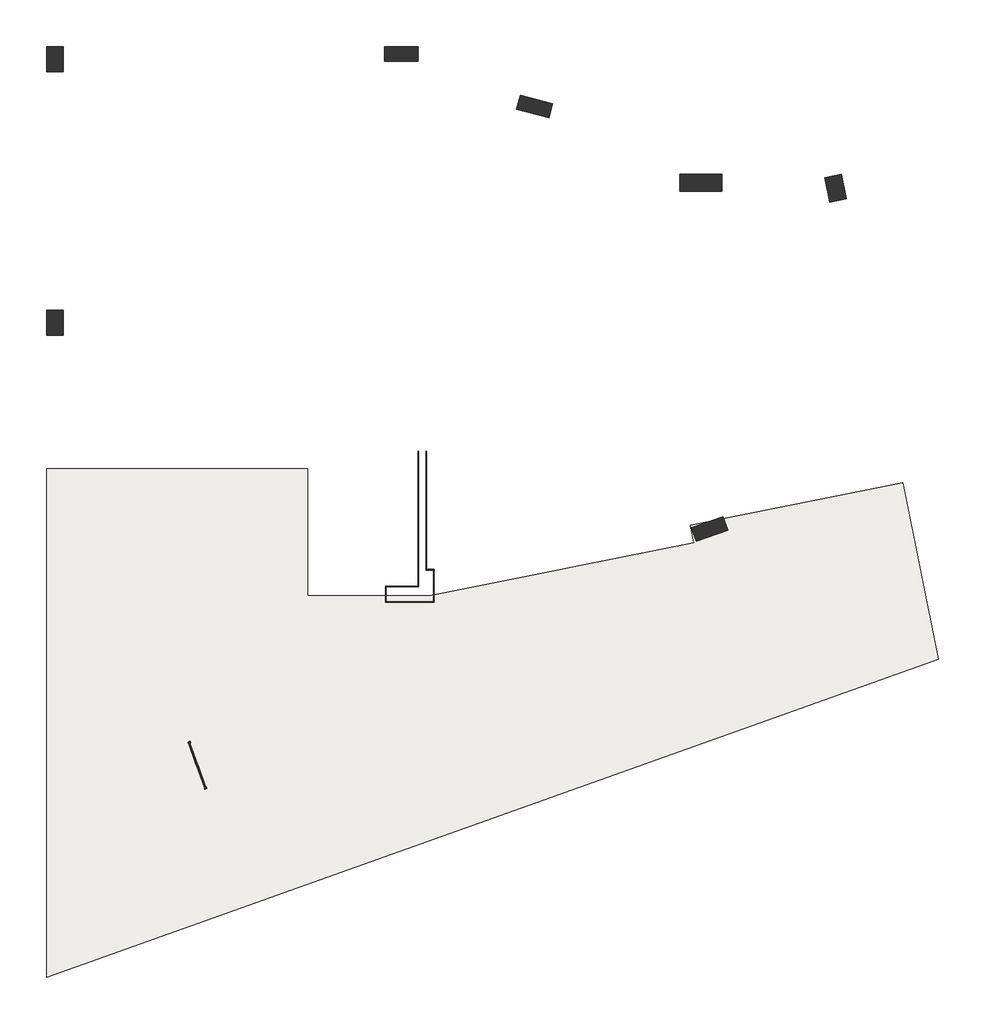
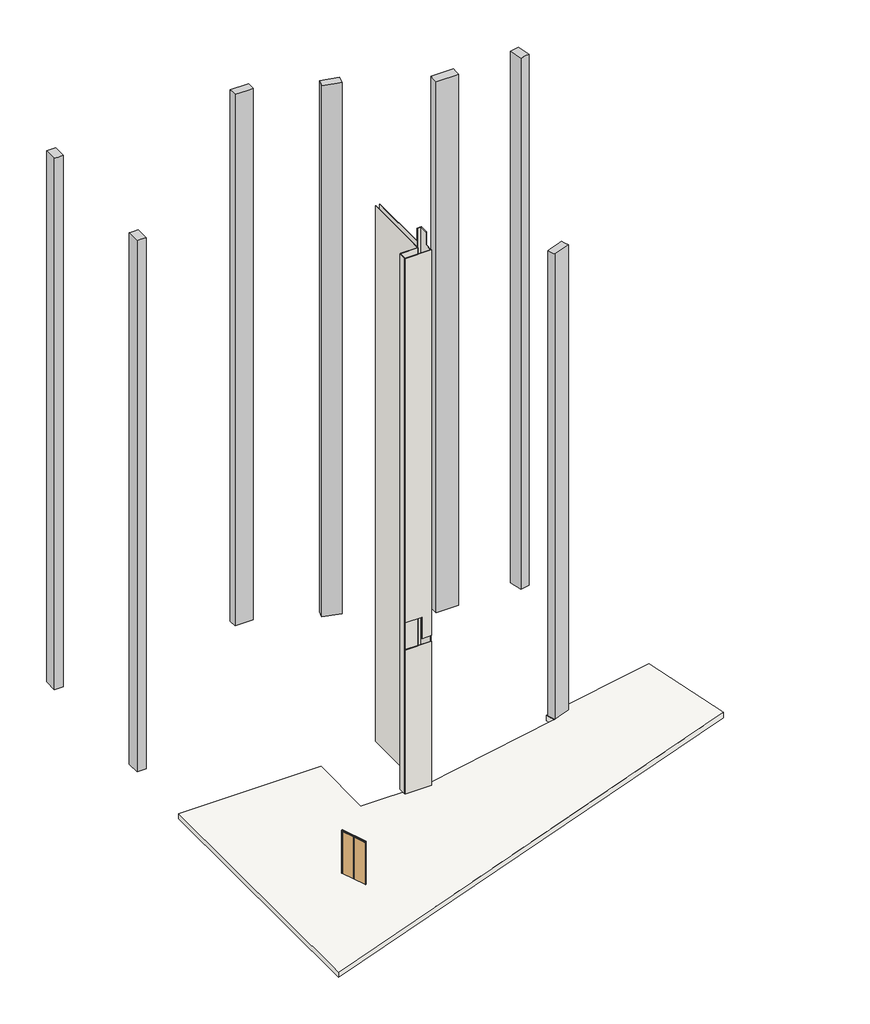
# One storey, incomplete: 7 columns, 7 walls, 1 door, 1 slab.
"""IFC4 building model written with IfcOpenShell, lengths in millimetres."""

from ifc_helpers import new_model, si_unit, frame, origin, place, context, project, spatial, polyline, outline, extrude, faceted_brep, transform, mapped, element, save
from components import door_ce10c01f

model = new_model("IFC4")

# Units and contexts
model_context = context("Model", 3, world=origin())
ifc_project = project(units=[si_unit("LENGTHUNIT", "METRE", prefix="MILLI")], contexts=[model_context])

# Site, building, storey
site = spatial("IfcSite", under=ifc_project)
building = spatial("IfcBuilding", under=site)
storey = spatial("IfcBuildingStorey", under=building, Name="SÓTANO 2/B", Elevation=-7000.0)

# Columns
placement = place(None, origin())
element("IfcColumn", 1, ObjectType="M_Hormigón-Rectangular-Pilar : 35 X 80", at=placement, inside=storey, context=model_context, shape_type="Brep", body=[
    faceted_brep([(42104.5059119, 38240.4026232, -7000.0), (42904.5059119, 38240.4026232, -7000.0), (42904.5059119, 37890.4026232, -7000.0), (42104.5059119, 37890.4026232, -7000.0), (42104.5059119, 38240.4026232, 17800.0), (42904.5059119, 38240.4026232, 17800.0), (42904.5059119, 38240.4026232, -150.0), (42104.5059119, 38240.4026232, 0.0), (42104.5059119, 38240.4026232, 2720.0), (42104.5059119, 38240.4026232, 3000.0), (42104.5059119, 38240.4026232, 5720.0), (42104.5059119, 38240.4026232, 6000.0), (42104.5059119, 38240.4026232, 8720.0), (42104.5059119, 38240.4026232, 9000.0), (42104.5059119, 38240.4026232, 11720.0), (42104.5059119, 38240.4026232, 12000.0), (42104.5059119, 38240.4026232, 14720.0), (42104.5059119, 38240.4026232, 15000.0), (42904.5059119, 37890.4026232, 17800.0), (42904.5059119, 37890.4026232, -150.0), (42744.5059119, 37890.4026232, 17800.0), (42264.5059119, 37890.4026232, 17800.0), (42104.5059119, 37890.4026232, 17800.0), (42104.5059119, 37890.4026232, 15000.0), (42104.5059119, 37890.4026232, 14720.0), (42104.5059119, 37890.4026232, 12000.0), (42104.5059119, 37890.4026232, 8720.0), (42104.5059119, 37890.4026232, 6000.0), (42104.5059119, 37890.4026232, 5720.0), (42104.5059119, 37890.4026232, 3000.0), (42104.5059119, 37890.4026232, 2720.0), (42104.5059119, 37890.4026232, 0.0), (42104.5059119, 38080.4026232, 17800.0)], [[[0, 1, 2, 3]], [[4, 5, 6, 1, 0, 7, 8, 9, 10, 11, 12, 13, 14, 15, 16, 17]], [[5, 18, 19, 2, 1, 6]], [[18, 20, 21, 22, 23, 24, 25, 26, 27, 28, 29, 30, 31, 3, 2, 19]], [[22, 32, 4, 17, 16, 15, 14, 13, 12, 11, 10, 9, 8, 7, 0, 3, 31, 30, 29, 28, 27, 26, 25, 24, 23]], [[4, 32, 22, 21, 20, 18, 5]]]),
])
element("IfcColumn", 2, ObjectType="M_Hormigón-Rectangular-Pilar : 35 X 80", at=placement, inside=storey, context=model_context, shape_type="Brep", body=[
    faceted_brep([(45362.6697333, 37073.7353748, -7000.0), (46135.226526, 36865.9951474, -7000.0), (46044.3401765, 36528.0015506, -7000.0), (45271.7833838, 36735.741778, -7000.0), (45362.6697333, 37073.7353748, 17800.0), (46134.5059119, 36866.1889203, 17800.0), (46135.226526, 36865.9951474, 17800.0), (46135.226526, 36865.9951474, -143.1125334), (45362.6697333, 37073.7353748, 0.0), (45362.6697333, 37073.7353748, 2720.0), (45362.6697333, 37073.7353748, 3000.0), (45362.6697333, 37073.7353748, 5720.0), (45362.6697333, 37073.7353748, 6000.0), (45362.6697333, 37073.7353748, 8720.0), (45362.6697333, 37073.7353748, 9000.0), (45362.6697333, 37073.7353748, 11720.0), (45362.6697333, 37073.7353748, 12000.0), (45362.6697333, 37073.7353748, 14720.0), (45362.6697333, 37073.7353748, 15000.0), (46134.5059119, 36863.3152848, 17800.0), (46044.3401765, 36528.0015506, 17800.0), (46044.3401765, 36528.0015506, 3000.0), (46044.3401765, 36528.0015506, 2720.0), (46044.3401765, 36528.0015506, -143.1125334), (45974.5059119, 36546.7799578, 17800.0), (45271.7833838, 36735.741778, 17800.0), (45271.7833838, 36735.741778, 5720.0), (45271.7833838, 36735.741778, 0.0), (45321.1216878, 36919.2240162, 17800.0)], [[[0, 1, 2, 3]], [[4, 5, 6, 7, 1, 0, 8, 9, 10, 11, 12, 13, 14, 15, 16, 17, 18]], [[6, 19, 20, 21, 22, 23, 2, 1, 7]], [[20, 24, 25, 26, 27, 3, 2, 23, 22, 21]], [[25, 28, 4, 18, 17, 16, 15, 14, 13, 12, 11, 10, 9, 8, 0, 3, 27, 26]], [[4, 28, 25, 24, 20, 19, 6, 5]]]),
])
element("IfcColumn", 3, ObjectType="M_Hormigón-Rectangular-Pilar : 35 X 80", at=placement, inside=storey, context=model_context, shape_type="Brep", body=[
    faceted_brep([(50335.574577, 26632.7848285, -7000.0), (50298.7246638, 26619.6532307, -7000.0), (50165.4560478, 26572.1624849, -7000.0), (49581.9928344, 26364.2432915, -7000.0), (49464.5059119, 26693.9353039, -7000.0), (50218.0876546, 26962.4768409, -7000.0), (50335.574577, 26632.7848285, 14720.0), (49581.9928344, 26364.2432915, 14720.0), (49581.9928344, 26364.2432915, 14400.0), (49581.9928344, 26364.2432915, 3000.0), (49581.9928344, 26364.2432915, -1000.0), (50335.574577, 26632.7848285, -1000.0), (50335.574577, 26632.7848285, 14350.0), (49571.9225267, 26392.5026068, 14720.0), (49464.5059119, 26693.9353039, 14720.0), (49464.5059119, 26693.9353039, 12000.0), (49464.5059119, 26693.9353039, 11720.0), (49464.5059119, 26693.9353039, 9000.0), (49464.5059119, 26693.9353039, 3000.0), (49464.5059119, 26693.9353039, 2720.0), (49464.5059119, 26693.9353039, 0.0), (49584.5059119, 26736.6977311, 14720.0), (50105.2453009, 26922.2650664, 14720.0), (50218.0876546, 26962.4768409, 14720.0), (50218.0876546, 26962.4768409, 9000.0), (50218.0876546, 26962.4768409, 8720.0), (50218.0876546, 26962.4768409, 5720.0), (50218.0876546, 26962.4768409, 0.0), (50281.8662696, 26783.501177, 14720.0)], [[[0, 1, 2, 3, 4, 5]], [[6, 7, 8, 9, 10, 3, 2, 1, 0, 11, 12]], [[7, 13, 14, 15, 16, 17, 18, 19, 20, 4, 3, 10, 9, 8]], [[14, 21, 22, 23, 24, 25, 26, 27, 5, 4, 20, 19, 18, 17, 16, 15]], [[23, 28, 6, 12, 11, 0, 5, 27, 26, 25, 24]], [[6, 28, 23, 22, 21, 14, 13, 7]]]),
])
element("IfcColumn", 4, ObjectType="M_Hormigón-Rectangular-Pilar : 40 X 100", at=placement, inside=storey, context=model_context, shape_type="Brep", body=[
    faceted_brep([(49194.4822189, 35174.0104642, -7000.0), (50194.4822189, 35174.0104642, -7000.0), (50194.4822189, 34774.0104642, -7000.0), (49194.4822189, 34774.0104642, -7000.0), (49194.4822189, 35174.0104642, 17800.0), (50194.4822189, 35174.0104642, 17800.0), (50194.4822189, 35174.0104642, 15000.0), (50194.4822189, 35174.0104642, 14720.0), (50194.4822189, 35174.0104642, 12000.0), (50194.4822189, 35174.0104642, 11720.0), (50194.4822189, 35174.0104642, 9000.0), (50194.4822189, 35174.0104642, 8720.0), (50194.4822189, 35174.0104642, 6000.0), (50194.4822189, 35174.0104642, 5720.0), (50194.4822189, 35174.0104642, 3000.0), (50194.4822189, 35174.0104642, 2720.0), (50194.4822189, 35174.0104642, -150.0), (49194.4822189, 35174.0104642, -150.0), (49194.4822189, 35174.0104642, 2720.0), (49194.4822189, 35174.0104642, 3000.0), (49194.4822189, 35174.0104642, 5720.0), (49194.4822189, 35174.0104642, 6000.0), (49194.4822189, 35174.0104642, 8720.0), (49194.4822189, 35174.0104642, 9000.0), (49194.4822189, 35174.0104642, 11720.0), (49194.4822189, 35174.0104642, 12000.0), (49194.4822189, 35174.0104642, 14720.0), (49194.4822189, 35174.0104642, 15000.0), (50194.4822189, 35014.0104642, 17800.0), (50194.4822189, 34899.0104642, 17800.0), (50194.4822189, 34774.0104642, 17800.0), (50194.4822189, 34774.0104642, 14720.0), (50194.4822189, 34774.0104642, 12000.0), (50194.4822189, 34774.0104642, 11720.0), (50194.4822189, 34774.0104642, 9000.0), (50194.4822189, 34774.0104642, 6000.0), (50194.4822189, 34774.0104642, 5720.0), (50194.4822189, 34774.0104642, 3000.0), (50194.4822189, 34774.0104642, 2720.0), (50194.4822189, 34774.0104642, -150.0), (50074.4822189, 34774.0104642, 17800.0), (49314.4822189, 34774.0104642, 17800.0), (49194.4822189, 34774.0104642, 17800.0), (49194.4822189, 34774.0104642, 15000.0), (49194.4822189, 34774.0104642, 2720.0), (49194.4822189, 34774.0104642, -150.0), (49194.4822189, 35014.0104642, 17800.0)], [[[0, 1, 2, 3]], [[4, 5, 6, 7, 8, 9, 10, 11, 12, 13, 14, 15, 16, 1, 0, 17, 18, 19, 20, 21, 22, 23, 24, 25, 26, 27]], [[5, 28, 29, 30, 31, 32, 33, 34, 35, 36, 37, 38, 39, 2, 1, 16, 15, 14, 13, 12, 11, 10, 9, 8, 7, 6]], [[30, 40, 41, 42, 43, 44, 45, 3, 2, 39, 38, 37, 36, 35, 34, 33, 32, 31]], [[42, 46, 4, 27, 26, 25, 24, 23, 22, 21, 20, 19, 18, 17, 0, 3, 45, 44, 43]], [[4, 46, 42, 41, 40, 30, 29, 28, 5]]]),
])
element("IfcColumn", 5, ObjectType="M_Hormigón-Rectangular-Pilar : 40 X 60", at=placement, inside=storey, context=model_context, shape_type="Brep", body=[
    faceted_brep([(34383.8589874, 31913.9733508, -7000.0), (34383.8589874, 31313.9733508, -7000.0), (33983.8589874, 31313.9733508, -7000.0), (33983.8589874, 31913.9733508, -7000.0), (34383.8589874, 31913.9733508, 17800.0), (34383.8589874, 31768.9733508, 17800.0), (34383.8589874, 31313.9733508, 17800.0), (34383.8589874, 31313.9733508, 5720.0), (34383.8589874, 31313.9733508, 0.0), (34383.8589874, 31913.9733508, 0.0), (34383.8589874, 31913.9733508, 5720.0), (34383.8589874, 31913.9733508, 15000.0), (34143.8589874, 31313.9733508, 17800.0), (33983.8589874, 31313.9733508, 17800.0), (33983.8589874, 31313.9733508, 15000.0), (33983.8589874, 31313.9733508, 12000.0), (33983.8589874, 31313.9733508, 11720.0), (33983.8589874, 31313.9733508, 9000.0), (33983.8589874, 31313.9733508, 8720.0), (33983.8589874, 31313.9733508, 6000.0), (33983.8589874, 31313.9733508, 5720.0), (33983.8589874, 31313.9733508, 3000.0), (33983.8589874, 31313.9733508, 2720.0), (33983.8589874, 31313.9733508, 0.0), (33983.8589874, 31913.9733508, 17800.0), (33983.8589874, 31913.9733508, 15000.0), (33983.8589874, 31913.9733508, 14720.0), (33983.8589874, 31913.9733508, 12000.0), (33983.8589874, 31913.9733508, 11720.0), (33983.8589874, 31913.9733508, 9000.0), (33983.8589874, 31913.9733508, 8720.0), (33983.8589874, 31913.9733508, 6000.0), (33983.8589874, 31913.9733508, 5720.0), (33983.8589874, 31913.9733508, 3000.0), (33983.8589874, 31913.9733508, 2720.0), (33983.8589874, 31913.9733508, 0.0), (34143.8589874, 31913.9733508, 17800.0)], [[[0, 1, 2, 3]], [[4, 5, 6, 7, 8, 1, 0, 9, 10, 11]], [[6, 12, 13, 14, 15, 16, 17, 18, 19, 20, 21, 22, 23, 2, 1, 8, 7]], [[13, 24, 25, 26, 27, 28, 29, 30, 31, 32, 33, 34, 35, 3, 2, 23, 22, 21, 20, 19, 18, 17, 16, 15, 14]], [[24, 36, 4, 11, 10, 9, 0, 3, 35, 34, 33, 32, 31, 30, 29, 28, 27, 26, 25]], [[4, 36, 24, 13, 12, 6, 5]]]),
])
element("IfcColumn", 6, ObjectType="M_Hormigón-Rectangular-Pilar : 40 X 60", at=placement, inside=storey, context=model_context, shape_type="Brep", body=[
    faceted_brep([(34383.8589874, 38240.4026232, -7000.0), (34383.8589874, 37640.4026232, -7000.0), (33983.8589874, 37640.4026232, -7000.0), (33983.8589874, 38240.4026232, -7000.0), (34383.8589874, 38240.4026232, 17800.0), (34383.8589874, 38080.4026232, 17800.0), (34383.8589874, 37765.4026232, 17800.0), (34383.8589874, 37640.4026232, 17800.0), (34383.8589874, 37640.4026232, 0.0), (34383.8589874, 38240.4026232, 0.0), (34383.8589874, 38240.4026232, 2720.0), (34383.8589874, 38240.4026232, 3000.0), (34383.8589874, 38240.4026232, 5720.0), (34383.8589874, 38240.4026232, 6000.0), (34383.8589874, 38240.4026232, 8720.0), (34383.8589874, 38240.4026232, 9000.0), (34383.8589874, 38240.4026232, 11720.0), (34383.8589874, 38240.4026232, 12000.0), (34383.8589874, 38240.4026232, 14720.0), (34383.8589874, 38240.4026232, 15000.0), (34143.8589874, 37640.4026232, 17800.0), (33983.8589874, 37640.4026232, 17800.0), (33983.8589874, 37640.4026232, 15000.0), (33983.8589874, 37640.4026232, 14720.0), (33983.8589874, 37640.4026232, 12000.0), (33983.8589874, 37640.4026232, 11720.0), (33983.8589874, 37640.4026232, 9000.0), (33983.8589874, 37640.4026232, 8720.0), (33983.8589874, 37640.4026232, 6000.0), (33983.8589874, 37640.4026232, 5720.0), (33983.8589874, 37640.4026232, 3000.0), (33983.8589874, 37640.4026232, 2720.0), (33983.8589874, 37640.4026232, 0.0), (33983.8589874, 38240.4026232, 17800.0), (33983.8589874, 38240.4026232, -150.0)], [[[0, 1, 2, 3]], [[4, 5, 6, 7, 8, 1, 0, 9, 10, 11, 12, 13, 14, 15, 16, 17, 18, 19]], [[7, 20, 21, 22, 23, 24, 25, 26, 27, 28, 29, 30, 31, 32, 2, 1, 8]], [[21, 33, 34, 3, 2, 32, 31, 30, 29, 28, 27, 26, 25, 24, 23, 22]], [[33, 4, 19, 18, 17, 16, 15, 14, 13, 12, 11, 10, 9, 0, 3, 34]], [[4, 33, 21, 20, 7, 6, 5]]]),
])
element("IfcColumn", 7, ObjectType="M_Hormigón-Rectangular-Pilar : 40 X 60", at=placement, inside=storey, context=model_context, shape_type="Brep", body=[
    faceted_brep([(53063.0024673, 35174.0104642, -7000.0), (53180.835534, 34585.6947595, -7000.0), (52788.6250642, 34507.1393817, -7000.0), (52670.7919975, 35095.4550864, -7000.0), (53063.0024673, 35174.0104642, 17800.0), (53180.835534, 34585.6947595, 17800.0), (53180.835534, 34585.6947595, 16000.0), (53180.835534, 34585.6947595, 15000.0), (53180.835534, 34585.6947595, 14720.0), (53180.835534, 34585.6947595, 12000.0), (53180.835534, 34585.6947595, 11720.0), (53180.835534, 34585.6947595, 9000.0), (53180.835534, 34585.6947595, 8720.0), (53180.835534, 34585.6947595, 6000.0), (53180.835534, 34585.6947595, 5720.0), (53180.835534, 34585.6947595, 3000.0), (53180.835534, 34585.6947595, 2720.0), (53180.835534, 34585.6947595, 0.0), (53063.0024673, 35174.0104642, -150.0), (53063.0024673, 35174.0104642, 2400.0), (53063.0024673, 35174.0104642, 2720.0), (53063.0024673, 35174.0104642, 3000.0), (53063.0024673, 35174.0104642, 5720.0), (53063.0024673, 35174.0104642, 6000.0), (53063.0024673, 35174.0104642, 8720.0), (53063.0024673, 35174.0104642, 9000.0), (53063.0024673, 35174.0104642, 11720.0), (53063.0024673, 35174.0104642, 12000.0), (53063.0024673, 35174.0104642, 14720.0), (53063.0024673, 35174.0104642, 15000.0), (53023.9513461, 34554.2726084, 17800.0), (52788.6250642, 34507.1393817, 17800.0), (52788.6250642, 34507.1393817, 14000.0), (52788.6250642, 34507.1393817, 12000.0), (52687.1044459, 35014.0104642, 17800.0), (52670.7919975, 35095.4550864, 17800.0), (52670.7919975, 35095.4550864, 15000.0), (52670.7919975, 35095.4550864, 14720.0), (52670.7919975, 35095.4550864, 12000.0), (52670.7919975, 35095.4550864, 11720.0), (52670.7919975, 35095.4550864, 9000.0), (52670.7919975, 35095.4550864, 8720.0), (52670.7919975, 35095.4550864, 6000.0), (52670.7919975, 35095.4550864, 5720.0), (52670.7919975, 35095.4550864, 3000.0), (52670.7919975, 35095.4550864, 2720.0), (52670.7919975, 35095.4550864, -150.0)], [[[0, 1, 2, 3]], [[4, 5, 6, 7, 8, 9, 10, 11, 12, 13, 14, 15, 16, 17, 1, 0, 18, 19, 20, 21, 22, 23, 24, 25, 26, 27, 28, 29]], [[5, 30, 31, 32, 33, 2, 1, 17, 16, 15, 14, 13, 12, 11, 10, 9, 8, 7, 6]], [[31, 34, 35, 36, 37, 38, 39, 40, 41, 42, 43, 44, 45, 46, 3, 2, 33, 32]], [[35, 4, 29, 28, 27, 26, 25, 24, 23, 22, 21, 20, 19, 18, 0, 3, 46, 45, 44, 43, 42, 41, 40, 39, 38, 37, 36]], [[4, 35, 34, 31, 30, 5]]]),
])

# Door
door_shape = door_ce10c01f(model_context)
element("IfcDoor", 8, ObjectType="Puerta Metalica-lisa_doble : PH1-Puerta Metálica lisa_doble", at=placement, inside=storey, context=model_context, shape_type="MappedRepresentation", body=[
    mapped(door_shape, transform((37606.8231704, 20994.9113734, -7000.0), x_axis=(-0.3356769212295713, 0.9419771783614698, 0.0), y_axis=(-0.9419771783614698, -0.3356769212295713, 0.0), z_axis=(0.0, 0.0, 1.0))),
])

# Slab
element("IfcSlab", 9, ObjectType="Losa sótano CIMENTACION", at=placement, inside=storey, context=model_context, shape_type="SweptSolid", body=[
    extrude(outline(polyline([(33983.8589874, 15903.3384852), (33983.8589874, 28111.0432167), (40254.5059119, 28111.0432167), (40254.5059119, 25064.0112971), (43181.7537294, 25064.0112971), (49529.9841803, 26335.4909744), (49446.6698952, 26751.4616666), (54545.4060025, 27772.6815783), (55394.5443621, 23533.1124469), (33983.8589874, 15903.3384852)])), frame((0.0, 0.0, -7250.0), z_axis=(0.0, 0.0, 1.0), x_axis=(1.0, 0.0, 0.0)), (0.0, 0.0, 1.0), 250.0),
])

# Walls
element("IfcWall", 10, ObjectType="Muro solo enjarre -2cms", at=placement, inside=storey, context=model_context, shape_type="Brep", body=[
    faceted_brep([(42919.5059119, 25274.0112971, -7000.0), (42919.5059119, 28524.010184, -7000.0), (42919.5059119, 28524.010184, -6500.0), (42919.5059119, 28524.010184, 18000.0), (42919.5059119, 28504.010184, 18000.0), (42919.5059119, 25274.0112971, 18000.0), (42899.5059119, 25274.0112971, -7000.0), (42899.5059119, 25274.0112971, 18000.0), (42899.5059119, 25294.0112971, 18000.0), (42899.5059119, 28524.010184, 18000.0), (42899.5059119, 28524.010184, 17200.0), (42899.5059119, 28524.010184, 15000.0), (42899.5059119, 28524.010184, 14200.0), (42899.5059119, 28524.010184, 12000.0), (42899.5059119, 28524.010184, 11200.0), (42899.5059119, 28524.010184, 9000.0), (42899.5059119, 28524.010184, 8200.0), (42899.5059119, 28524.010184, 6000.0), (42899.5059119, 28524.010184, 5200.0), (42899.5059119, 28524.010184, 3000.0), (42899.5059119, 28524.010184, 2200.0), (42899.5059119, 28524.010184, -7000.0), (42899.5059119, 25294.0112971, -7000.0)], [[[0, 1, 2, 3, 4, 5]], [[6, 7, 8, 9, 10, 11, 12, 13, 14, 15, 16, 17, 18, 19, 20, 21, 22]], [[1, 0, 6, 22, 21]], [[3, 2, 1, 21, 20, 19, 18, 17, 16, 15, 14, 13, 12, 11, 10, 9]], [[5, 4, 3, 9, 8, 7]], [[0, 5, 7, 6]]]),
])
element("IfcWall", 11, ObjectType="Muro solo enjarre -2cms", at=placement, inside=storey, context=model_context, shape_type="Brep", body=[
    faceted_brep([(43089.5059119, 28524.010184, -7000.0), (43089.5059119, 25674.0112971, -7000.0), (43089.5059119, 25674.0112971, -280.0), (43089.5059119, 28524.010184, -280.0), (43089.5059119, 28524.010184, -6500.0), (43109.5059119, 25674.0112971, -7000.0), (43109.5059119, 25694.0112971, -7000.0), (43109.5059119, 28524.010184, -7000.0), (43109.5059119, 28524.010184, -280.0), (43109.5059119, 25674.0112971, -280.0)], [[[0, 1, 2, 3, 4]], [[5, 6, 7, 8, 9]], [[1, 0, 7, 6, 5]], [[7, 0, 4, 3, 8]], [[3, 2, 9, 8]], [[1, 5, 9, 2]]]),
    faceted_brep([(43089.5059119, 25674.0112971, 18000.0), (43089.5059119, 28504.010184, 18000.0), (43089.5059119, 28524.010184, 18000.0), (43089.5059119, 28524.010184, 0.0), (43089.5059119, 25674.0112971, 0.0), (43109.5059119, 28524.010184, 18000.0), (43109.5059119, 25694.0112971, 18000.0), (43109.5059119, 25674.0112971, 18000.0), (43109.5059119, 25674.0112971, 0.0), (43109.5059119, 28524.010184, 0.0), (43109.5059119, 28524.010184, 2200.0), (43109.5059119, 28524.010184, 3000.0), (43109.5059119, 28524.010184, 5200.0), (43109.5059119, 28524.010184, 6000.0), (43109.5059119, 28524.010184, 8200.0), (43109.5059119, 28524.010184, 9000.0), (43109.5059119, 28524.010184, 11200.0), (43109.5059119, 28524.010184, 11720.0), (43109.5059119, 28524.010184, 12000.0), (43109.5059119, 28524.010184, 14200.0), (43109.5059119, 28524.010184, 15000.0), (43109.5059119, 28524.010184, 17200.0)], [[[0, 1, 2, 3, 4]], [[5, 6, 7, 8, 9, 10, 11, 12, 13, 14, 15, 16, 17, 18, 19, 20, 21]], [[2, 1, 0, 7, 6, 5]], [[2, 5, 21, 20, 19, 18, 17, 16, 15, 14, 13, 12, 11, 10, 9, 3]], [[4, 3, 9, 8]], [[7, 0, 4, 8]]]),
])
element("IfcWall", 12, ObjectType="Muro solo enjarre -2cms", at=placement, inside=storey, context=model_context, shape_type="Brep", body=[
    faceted_brep([(43289.5059119, 24924.0112971, -7000.0), (43269.5059119, 24924.0112971, -7000.0), (42139.5059119, 24924.0112971, -7000.0), (42119.5059119, 24924.0112971, -7000.0), (42119.5059119, 24924.0112971, -280.0), (43289.5059119, 24924.0112971, -280.0), (42119.5059119, 24904.0112971, -7000.0), (43289.5059119, 24904.0112971, -7000.0), (43289.5059119, 24904.0112971, -280.0), (42119.5059119, 24904.0112971, -280.0)], [[[0, 1, 2, 3, 4, 5]], [[6, 7, 8, 9]], [[3, 2, 1, 0, 7, 6]], [[5, 4, 9, 8]], [[3, 6, 9, 4]], [[7, 0, 5, 8]]]),
    faceted_brep([(42872.6275078, 24924.0112971, 1000.0), (42119.5059119, 24924.0112971, 1000.0), (42119.5059119, 24924.0112971, 17400.0), (42119.5059119, 24924.0112971, 18000.0), (42139.5059119, 24924.0112971, 18000.0), (43269.5059119, 24924.0112971, 18000.0), (43289.5059119, 24924.0112971, 18000.0), (43289.5059119, 24924.0112971, 0.0), (42872.6275078, 24924.0112971, 0.0), (42119.5059119, 24904.0112971, 1000.0), (42872.6275078, 24904.0112971, 1000.0), (42872.6275078, 24904.0112971, 0.0), (43289.5059119, 24904.0112971, 0.0), (43289.5059119, 24904.0112971, 18000.0), (42129.5059119, 24904.0112971, 18000.0), (42119.5059119, 24904.0112971, 18000.0), (42119.5059119, 24904.0112971, 17400.0)], [[[0, 1, 2, 3, 4, 5, 6, 7, 8]], [[9, 10, 11, 12, 13, 14, 15, 16]], [[0, 10, 9, 1]], [[10, 0, 8, 11]], [[8, 7, 12, 11]], [[3, 15, 14, 13, 6, 5, 4]], [[15, 3, 2, 1, 9, 16]], [[6, 13, 12, 7]]]),
])
element("IfcWall", 13, ObjectType="Muro solo enjarre -2cms", at=placement, inside=storey, context=model_context, shape_type="Brep", body=[
    faceted_brep([(42139.5059119, 24924.0112971, -7000.0), (42139.5059119, 25274.0112971, -7000.0), (42139.5059119, 25294.0112971, -7000.0), (42139.5059119, 25294.0112971, 18000.0), (42139.5059119, 25274.0112971, 18000.0), (42139.5059119, 24924.0112971, 18000.0), (42119.5059119, 24924.0112971, -7000.0), (42119.5059119, 24924.0112971, -280.0), (42119.5059119, 24924.0112971, 1000.0), (42119.5059119, 24924.0112971, 18000.0), (42119.5059119, 25224.0112971, 18000.0), (42119.5059119, 25294.0112971, 18000.0), (42119.5059119, 25294.0112971, -7000.0), (42119.5059119, 25244.0112971, -7000.0), (42119.5059119, 25064.0112971, -7000.0)], [[[0, 1, 2, 3, 4, 5]], [[6, 7, 8, 9, 10, 11, 12, 13, 14]], [[2, 1, 0, 6, 14, 13, 12]], [[5, 4, 3, 11, 10, 9]], [[3, 2, 12, 11]], [[0, 5, 9, 8, 7, 6]]]),
])
element("IfcWall", 14, ObjectType="Muro solo enjarre -2cms", at=placement, inside=storey, context=model_context, shape_type="SweptSolid", body=[
    extrude(outline(polyline([(42899.5059119, 25274.0112971), (42139.5059119, 25274.0112971), (42139.5059119, 25294.0112971), (42899.5059119, 25294.0112971), (42899.5059119, 25274.0112971)])), frame((0.0, 0.0, -7000.0), z_axis=(0.0, 0.0, 1.0), x_axis=(1.0, 0.0, 0.0)), (0.0, 0.0, 1.0), 25000.0),
])
element("IfcWall", 15, ObjectType="Muro solo enjarre -2cms", at=placement, inside=storey, context=model_context, shape_type="Brep", body=[
    faceted_brep([(43289.5059119, 24924.0112971, -7000.0), (43289.5059119, 25674.0112971, -7000.0), (43289.5059119, 25674.0112971, 18600.0), (43289.5059119, 25294.0112971, 18600.0), (43289.5059119, 25294.0112971, 18000.0), (43289.5059119, 24924.0112971, 18000.0), (43289.5059119, 24924.0112971, 0.0), (43289.5059119, 24924.0112971, -280.0), (43269.5059119, 24924.0112971, -7000.0), (43269.5059119, 24924.0112971, 18000.0), (43269.5059119, 25294.0112971, 18000.0), (43269.5059119, 25294.0112971, 18600.0), (43269.5059119, 25674.0112971, 18600.0), (43269.5059119, 25674.0112971, 18000.0), (43269.5059119, 25674.0112971, -7000.0)], [[[0, 1, 2, 3, 4, 5, 6, 7]], [[8, 9, 10, 11, 12, 13, 14]], [[1, 0, 8, 14]], [[3, 2, 12, 11]], [[2, 1, 14, 13, 12]], [[4, 10, 9, 5]], [[0, 7, 6, 5, 9, 8]], [[4, 3, 11, 10]]]),
])
element("IfcWall", 16, ObjectType="Muro solo enjarre -2cms", at=placement, inside=storey, context=model_context, shape_type="Brep", body=[
    faceted_brep([(43289.5059119, 25694.0112971, -7000.0), (43109.5059119, 25694.0112971, -7000.0), (43109.5059119, 25694.0112971, 18600.0), (43289.5059119, 25694.0112971, 18600.0), (43289.5059119, 25674.0112971, -7000.0), (43289.5059119, 25674.0112971, 18600.0), (43269.5059119, 25674.0112971, 18600.0), (43109.5059119, 25674.0112971, 18600.0), (43109.5059119, 25674.0112971, 18000.0), (43109.5059119, 25674.0112971, 0.0), (43109.5059119, 25674.0112971, -280.0), (43109.5059119, 25674.0112971, -7000.0), (43269.5059119, 25674.0112971, -7000.0)], [[[0, 1, 2, 3]], [[4, 5, 6, 7, 8, 9, 10, 11, 12]], [[1, 0, 4, 12, 11]], [[3, 2, 7, 6, 5]], [[2, 1, 11, 10, 9, 8, 7]], [[0, 3, 5, 4]]]),
])

save(model, "model.ifc")
